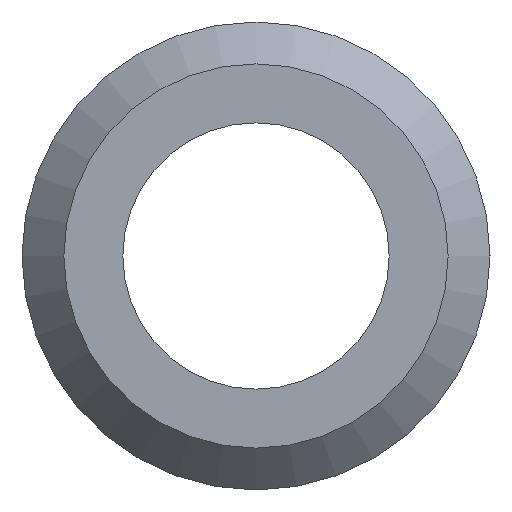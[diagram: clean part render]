
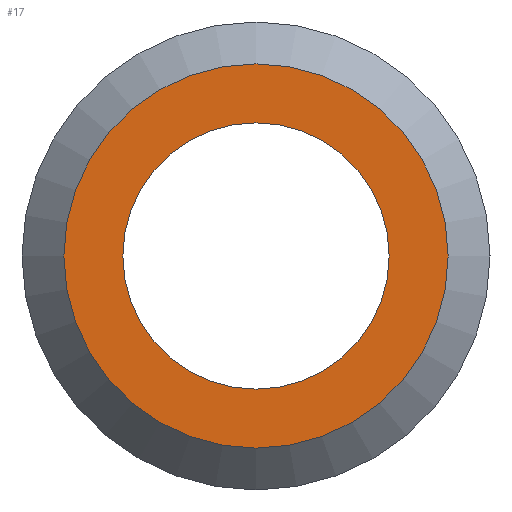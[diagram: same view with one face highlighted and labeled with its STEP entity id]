
A CAD part, left-side view. The second image highlights one B-rep face of the part: STEP entity #17.
In plain terms, the highlighted planar face has unit normal (-1, 0, 0).
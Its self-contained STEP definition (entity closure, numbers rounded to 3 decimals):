
#17 = ADVANCED_FACE('',(#18,#54),#31,.F.);
#18 = FACE_BOUND('',#19,.T.);
#19 = EDGE_LOOP('',(#20));
#20 = ORIENTED_EDGE('',*,*,#21,.T.);
#21 = EDGE_CURVE('',#22,#22,#24,.T.);
#22 = VERTEX_POINT('',#23);
#23 = CARTESIAN_POINT('',(0.,3.5,0.));
#24 = SURFACE_CURVE('',#25,(#30,#42),.PCURVE_S1.);
#25 = CIRCLE('',#26,3.5);
#26 = AXIS2_PLACEMENT_3D('',#27,#28,#29);
#27 = CARTESIAN_POINT('',(0.,0.,0.));
#28 = DIRECTION('',(1.,0.,0.));
#29 = DIRECTION('',(-0.,1.,0.));
#30 = PCURVE('',#31,#36);
#31 = PLANE('',#32);
#32 = AXIS2_PLACEMENT_3D('',#33,#34,#35);
#33 = CARTESIAN_POINT('',(0.,0.,0.));
#34 = DIRECTION('',(1.,0.,0.));
#35 = DIRECTION('',(-0.,1.,0.));
#36 = DEFINITIONAL_REPRESENTATION('',(#37),#41);
#37 = CIRCLE('',#38,3.5);
#38 = AXIS2_PLACEMENT_2D('',#39,#40);
#39 = CARTESIAN_POINT('',(0.,0.));
#40 = DIRECTION('',(1.,-0.));
#41 = ( GEOMETRIC_REPRESENTATION_CONTEXT(2) 
PARAMETRIC_REPRESENTATION_CONTEXT() REPRESENTATION_CONTEXT('2D SPACE',''
  ) );
#42 = PCURVE('',#43,#48);
#43 = CYLINDRICAL_SURFACE('',#44,3.5);
#44 = AXIS2_PLACEMENT_3D('',#45,#46,#47);
#45 = CARTESIAN_POINT('',(92.,0.,0.));
#46 = DIRECTION('',(-1.,-0.,-0.));
#47 = DIRECTION('',(0.,1.,0.));
#48 = DEFINITIONAL_REPRESENTATION('',(#49),#53);
#49 = LINE('',#50,#51);
#50 = CARTESIAN_POINT('',(-0.,92.));
#51 = VECTOR('',#52,1.);
#52 = DIRECTION('',(-1.,0.));
#53 = ( GEOMETRIC_REPRESENTATION_CONTEXT(2) 
PARAMETRIC_REPRESENTATION_CONTEXT() REPRESENTATION_CONTEXT('2D SPACE',''
  ) );
#54 = FACE_BOUND('',#55,.T.);
#55 = EDGE_LOOP('',(#56));
#56 = ORIENTED_EDGE('',*,*,#57,.F.);
#57 = EDGE_CURVE('',#58,#58,#60,.T.);
#58 = VERTEX_POINT('',#59);
#59 = CARTESIAN_POINT('',(0.,5.05,0.));
#60 = SURFACE_CURVE('',#61,(#66,#73),.PCURVE_S1.);
#61 = CIRCLE('',#62,5.05);
#62 = AXIS2_PLACEMENT_3D('',#63,#64,#65);
#63 = CARTESIAN_POINT('',(0.,0.,0.));
#64 = DIRECTION('',(1.,0.,0.));
#65 = DIRECTION('',(-0.,1.,0.));
#66 = PCURVE('',#31,#67);
#67 = DEFINITIONAL_REPRESENTATION('',(#68),#72);
#68 = CIRCLE('',#69,5.05);
#69 = AXIS2_PLACEMENT_2D('',#70,#71);
#70 = CARTESIAN_POINT('',(0.,0.));
#71 = DIRECTION('',(1.,-0.));
#72 = ( GEOMETRIC_REPRESENTATION_CONTEXT(2) 
PARAMETRIC_REPRESENTATION_CONTEXT() REPRESENTATION_CONTEXT('2D SPACE',''
  ) );
#73 = PCURVE('',#74,#79);
#74 = CONICAL_SURFACE('',#75,5.05,0.785);
#75 = AXIS2_PLACEMENT_3D('',#76,#77,#78);
#76 = CARTESIAN_POINT('',(0.,0.,0.));
#77 = DIRECTION('',(1.,0.,0.));
#78 = DIRECTION('',(-0.,1.,0.));
#79 = DEFINITIONAL_REPRESENTATION('',(#80),#84);
#80 = LINE('',#81,#82);
#81 = CARTESIAN_POINT('',(0.,0.));
#82 = VECTOR('',#83,1.);
#83 = DIRECTION('',(1.,0.));
#84 = ( GEOMETRIC_REPRESENTATION_CONTEXT(2) 
PARAMETRIC_REPRESENTATION_CONTEXT() REPRESENTATION_CONTEXT('2D SPACE',''
  ) );
